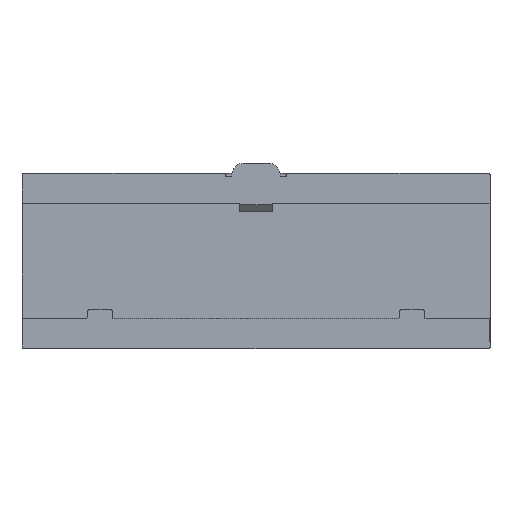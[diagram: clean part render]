
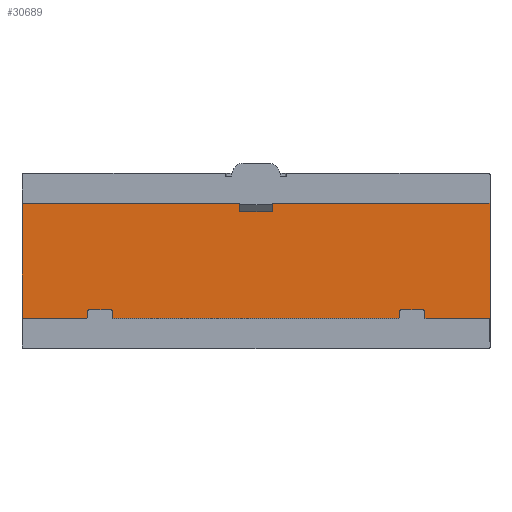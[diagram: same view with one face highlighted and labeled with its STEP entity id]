
A CAD part, front view. The second image highlights one B-rep face of the part: STEP entity #30689.
In plain terms, the highlighted planar face has unit normal (0, -1, 0).
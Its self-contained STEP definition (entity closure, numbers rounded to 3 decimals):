
#1775 = ORIENTED_EDGE ( 'NONE', *, *, #10982, .T. ) ;
#2896 = CARTESIAN_POINT ( 'NONE',  ( 0., -9., 0. ) ) ;
#3355 = CARTESIAN_POINT ( 'NONE',  ( -72., -9., 17.68 ) ) ;
#3805 = CARTESIAN_POINT ( 'NONE',  ( -72., -9., -17.68 ) ) ;
#5866 = VECTOR ( 'NONE', #10306, 1000. ) ;
#6760 = VERTEX_POINT ( 'NONE', #15098 ) ;
#7036 = CARTESIAN_POINT ( 'NONE',  ( -72., -9., 27. ) ) ;
#8339 = DIRECTION ( 'NONE',  ( -1., 0., 0. ) ) ;
#8873 = CARTESIAN_POINT ( 'NONE',  ( 72., -9., -17.68 ) ) ;
#9552 = EDGE_CURVE ( 'NONE', #31123, #29244, #21556, .T. ) ;
#10027 = DIRECTION ( 'NONE',  ( 0., 0., 1. ) ) ;
#10306 = DIRECTION ( 'NONE',  ( 1., 0., 0. ) ) ;
#10519 = DIRECTION ( 'NONE',  ( 0., 0., -1. ) ) ;
#10982 = EDGE_CURVE ( 'NONE', #6760, #31123, #25063, .T. ) ;
#11175 = DIRECTION ( 'NONE',  ( 0., 1., 0. ) ) ;
#12139 = VECTOR ( 'NONE', #10027, 1000. ) ;
#12607 = CARTESIAN_POINT ( 'NONE',  ( 72., -9., 27. ) ) ;
#13076 = CARTESIAN_POINT ( 'NONE',  ( -77., -9., -17.68 ) ) ;
#13251 = LINE ( 'NONE', #13076, #5866 ) ;
#13440 = ORIENTED_EDGE ( 'NONE', *, *, #13545, .T. ) ;
#13545 = EDGE_CURVE ( 'NONE', #30039, #6760, #23984, .T. ) ;
#13560 = VECTOR ( 'NONE', #10519, 1000. ) ;
#15098 = CARTESIAN_POINT ( 'NONE',  ( 72., -9., 17.68 ) ) ;
#16073 = CARTESIAN_POINT ( 'NONE',  ( -77., -9., 17.68 ) ) ;
#16380 = EDGE_LOOP ( 'NONE', ( #13440, #1775, #32618, #29891 ) ) ;
#21556 = LINE ( 'NONE', #7036, #13560 ) ;
#22746 = PLANE ( 'NONE',  #31368 ) ;
#23984 = LINE ( 'NONE', #12607, #12139 ) ;
#24635 = VECTOR ( 'NONE', #8339, 1000. ) ;
#25063 = LINE ( 'NONE', #16073, #24635 ) ;
#29244 = VERTEX_POINT ( 'NONE', #3805 ) ;
#29891 = ORIENTED_EDGE ( 'NONE', *, *, #35926, .T. ) ;
#30039 = VERTEX_POINT ( 'NONE', #8873 ) ;
#30689 = ADVANCED_FACE ( 'NONE', ( #33424 ), #22746, .F. ) ;
#31123 = VERTEX_POINT ( 'NONE', #3355 ) ;
#31368 = AXIS2_PLACEMENT_3D ( 'NONE', #2896, #11175, #33956 ) ;
#32618 = ORIENTED_EDGE ( 'NONE', *, *, #9552, .T. ) ;
#33424 = FACE_OUTER_BOUND ( 'NONE', #16380, .T. ) ;
#33956 = DIRECTION ( 'NONE',  ( 0., 0., 1. ) ) ;
#35926 = EDGE_CURVE ( 'NONE', #29244, #30039, #13251, .T. ) ;
